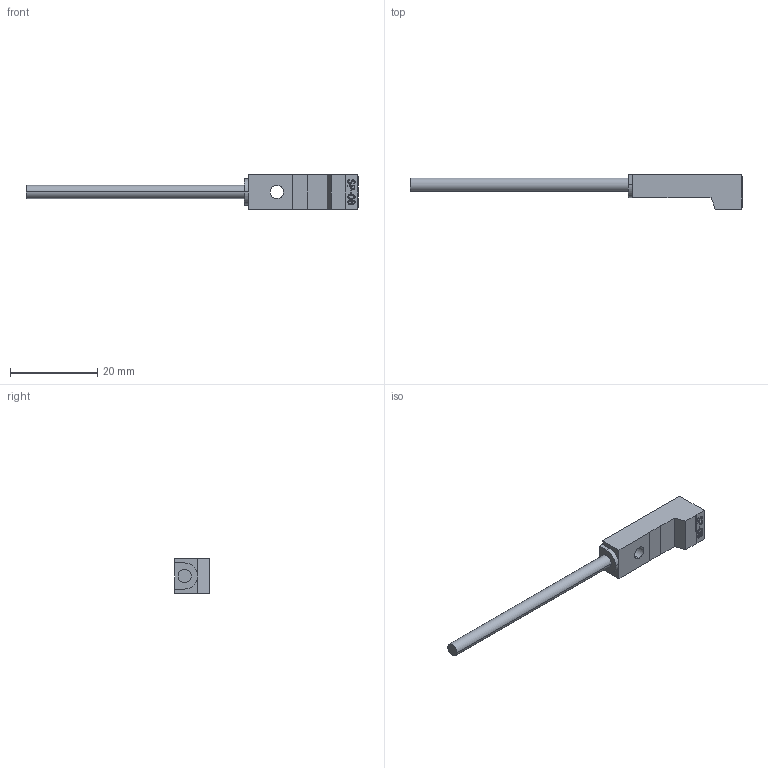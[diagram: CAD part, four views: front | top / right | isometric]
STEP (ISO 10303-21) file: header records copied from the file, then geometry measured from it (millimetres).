
FILE_DESCRIPTION (( 'STEP AP214' ), '1' );
FILE_NAME ('SP08H-B.STEP', '2025-09-09T09:55:36', ( 'Windows User' ), ( 'P R C' ), 'SwSTEP 2.0', 'SolidWorks 2023', '' );
FILE_SCHEMA (( 'AUTOMOTIVE_DESIGN' ));
Length unit declared in the file: millimetre
Products named in the file (1): SP08H-B
Bounding box: 76.1 x 8 x 8 mm (x, y, z)
Volume: 1545.5 mm3; surface area: 1360.3 mm2
Topology: 1 solids, 1 shells, 108 faces, 274 edges, 182 vertices
Faces by surface type: plane 62, bspline 40, cylinder 6
Entity records: 5637 total; most frequent: CARTESIAN_POINT 3261, ORIENTED_EDGE 548, DIRECTION 344, EDGE_CURVE 274, VERTEX_POINT 182, VECTOR 182, LINE 182, EDGE_LOOP 124
